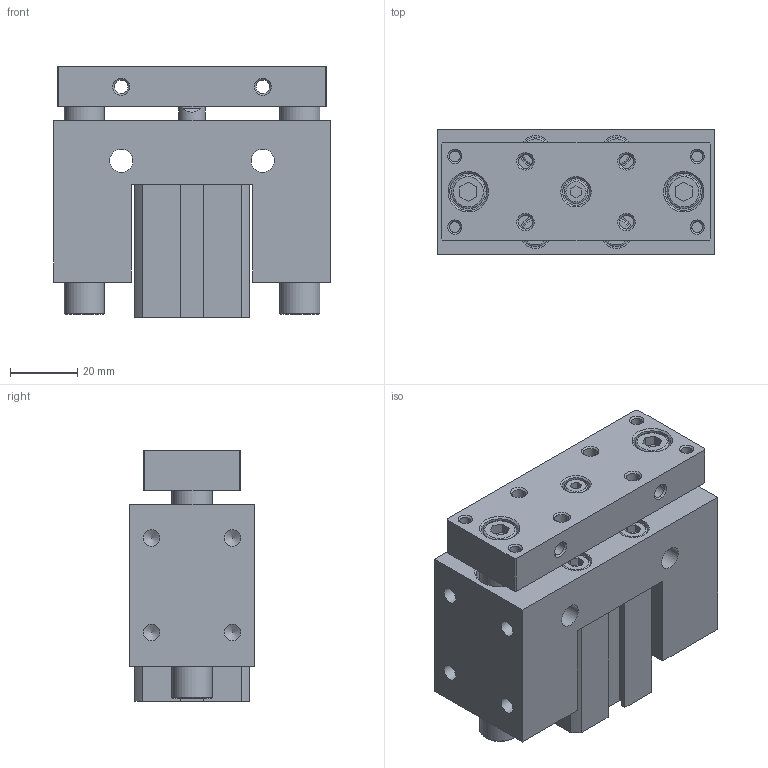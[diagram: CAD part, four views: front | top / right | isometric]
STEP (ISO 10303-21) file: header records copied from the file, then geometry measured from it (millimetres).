
FILE_DESCRIPTION((''),'2;1');
FILE_NAME('I:\3D電子目錄\氣缸\JCB\JCB\JCB20-S\JCB20x10-S.stp','2007-08-21T18:26:12',('Administrator'),(''),'Autodesk Inventor 11','Autodesk Inventor 11','');
FILE_SCHEMA(('AUTOMOTIVE_DESIGN { 1 0 10303 214 1 1 1 1 }'));
Length unit declared in the file: millimetre
Products named in the file (1): JCB20
Bounding box: 82 x 37 x 74.5 mm (x, y, z)
Volume: 161924.7 mm3; surface area: 53690.7 mm2
Topology: 5 solids, 5 shells, 293 faces, 643 edges, 415 vertices
Faces by surface type: plane 150, bspline 53, cylinder 45, cone 37, torus 8
Full cylindrical faces by diameter (mm): 1.5 x2, 4.3 x4, 4.917 x4, 7 x9, 8 x1, 8.5 x4, 9 x1, 10 x2, 12 x2, 13 x2, 14 x2, 22 x4, 23.2 x2
Entity records: 7875 total; most frequent: CARTESIAN_POINT 1985, DIRECTION 1184, ORIENTED_EDGE 992, EDGE_LOOP 504, EDGE_CURVE 496, AXIS2_PLACEMENT_3D 447, VERTEX_POINT 394, FACE_OUTER_BOUND 293
